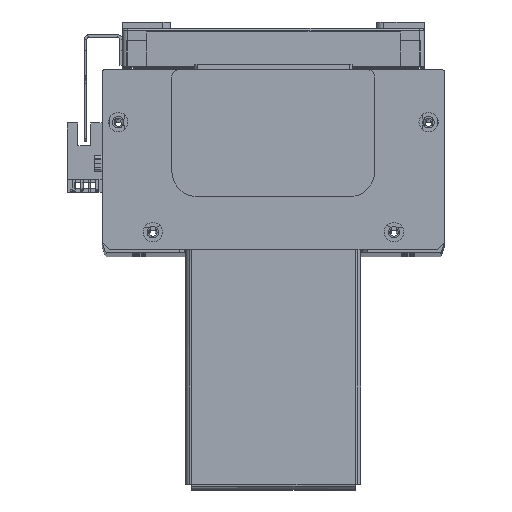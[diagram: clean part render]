
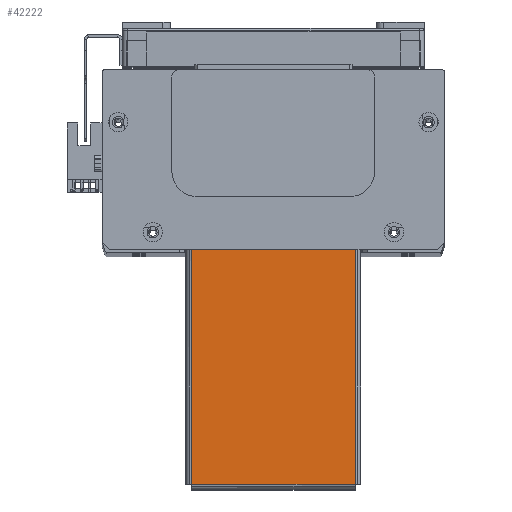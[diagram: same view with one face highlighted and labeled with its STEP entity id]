
A CAD part, top view. The second image highlights one B-rep face of the part: STEP entity #42222.
In plain terms, the highlighted planar face has unit normal (0, 0, 1) as drawn and (0, -1, 0) by its records, which use the part's own axes.
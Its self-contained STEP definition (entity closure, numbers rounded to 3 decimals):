
#1392 = AXIS2_PLACEMENT_3D ( 'NONE', #13435, #13457, #13447 ) ;
#5414 = CARTESIAN_POINT ( 'NONE',  ( -94.793, -1.5, -32.263 ) ) ;
#5431 = DIRECTION ( 'NONE',  ( 1., 0., 0. ) ) ;
#5576 = DIRECTION ( 'NONE',  ( 0., 0., -1. ) ) ;
#5583 = CARTESIAN_POINT ( 'NONE',  ( -2., -1.5, 34.5 ) ) ;
#5585 = CARTESIAN_POINT ( 'NONE',  ( 94.793, -1.5, 32.263 ) ) ;
#5587 = DIRECTION ( 'NONE',  ( -1., 0., 0. ) ) ;
#5676 = CARTESIAN_POINT ( 'NONE',  ( -94.763, -1.5, 32.293 ) ) ;
#5677 = DIRECTION ( 'NONE',  ( 0., 0., -1. ) ) ;
#7349 = EDGE_CURVE ( 'NONE', #17307, #17237, #61255, .T. ) ;
#7391 = EDGE_CURVE ( 'NONE', #17291, #17237, #34883, .T. ) ;
#7393 = EDGE_CURVE ( 'NONE', #17291, #17245, #34878, .T. ) ;
#7435 = EDGE_CURVE ( 'NONE', #17245, #17307, #34929, .T. ) ;
#8821 = EDGE_LOOP ( 'NONE', ( #20676, #20661, #20665, #20695 ) ) ;
#13399 = PLANE ( 'NONE',  #1392 ) ;
#13435 = CARTESIAN_POINT ( 'NONE',  ( 0., -1.5, 0. ) ) ;
#13447 = DIRECTION ( 'NONE',  ( 0., 0., 1. ) ) ;
#13457 = DIRECTION ( 'NONE',  ( 0., 1., 0. ) ) ;
#17237 = VERTEX_POINT ( 'NONE', #58221 ) ;
#17245 = VERTEX_POINT ( 'NONE', #58255 ) ;
#17291 = VERTEX_POINT ( 'NONE', #58346 ) ;
#17307 = VERTEX_POINT ( 'NONE', #58401 ) ;
#18877 = FACE_OUTER_BOUND ( 'NONE', #8821, .T. ) ;
#20661 = ORIENTED_EDGE ( 'NONE', *, *, #7391, .F. ) ;
#20665 = ORIENTED_EDGE ( 'NONE', *, *, #7393, .T. ) ;
#20676 = ORIENTED_EDGE ( 'NONE', *, *, #7349, .T. ) ;
#20695 = ORIENTED_EDGE ( 'NONE', *, *, #7435, .T. ) ;
#34853 = VECTOR ( 'NONE', #5576, 1000. ) ;
#34860 = VECTOR ( 'NONE', #5587, 1000. ) ;
#34878 = LINE ( 'NONE', #5585, #34860 ) ;
#34883 = LINE ( 'NONE', #5583, #34853 ) ;
#34929 = LINE ( 'NONE', #5676, #34943 ) ;
#34943 = VECTOR ( 'NONE', #5677, 1000. ) ;
#42222 = ADVANCED_FACE ( 'NONE', ( #18877 ), #13399, .F. ) ;
#58221 = CARTESIAN_POINT ( 'NONE',  ( -2., -1.5, -32.263 ) ) ;
#58255 = CARTESIAN_POINT ( 'NONE',  ( -94.763, -1.5, 32.263 ) ) ;
#58346 = CARTESIAN_POINT ( 'NONE',  ( -2., -1.5, 32.263 ) ) ;
#58401 = CARTESIAN_POINT ( 'NONE',  ( -94.763, -1.5, -32.263 ) ) ;
#61234 = VECTOR ( 'NONE', #5431, 1000. ) ;
#61255 = LINE ( 'NONE', #5414, #61234 ) ;
